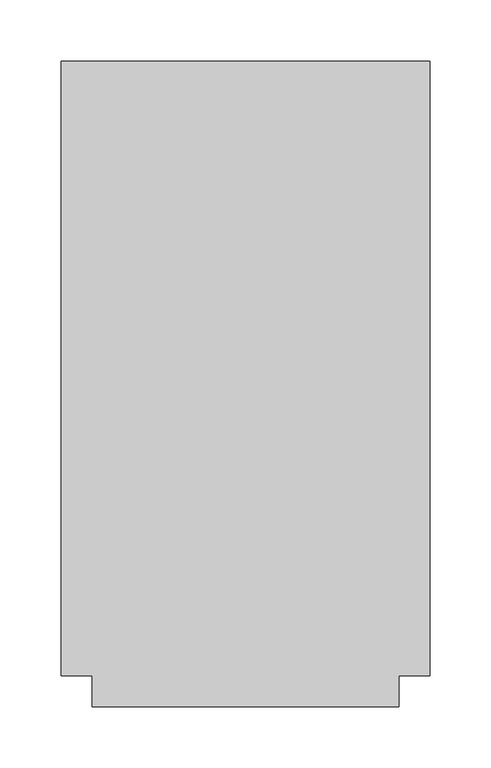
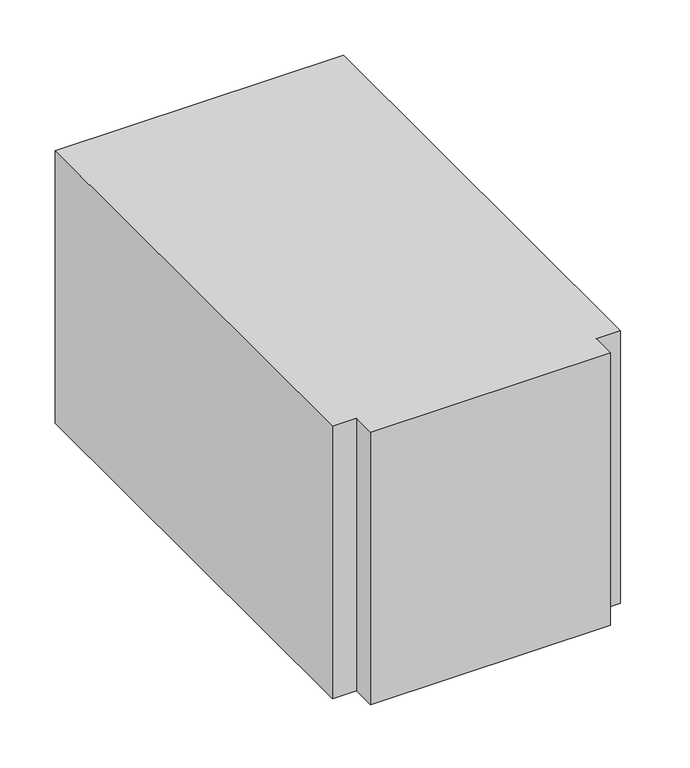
"""IFC4 building model written with IfcOpenShell, lengths in millimetres: duct fitting geometry, M_Te rectangular : Estándar."""

from ifc_helpers import new_model, si_unit, frame, origin, place, context, project, spatial, polyline, outline, extrude, source, transform, mapped, element, save


def duct_fitting_3e1e271b(model_context):
    return source(origin(), model_context, "Body", "SweptSolid", [
        extrude(outline(polyline([(-150.0, -250.0), (-150.0, 250.0), (150.0, 250.0), (150.0, -250.0), (125.0, -250.0), (125.0, -275.0), (-125.0, -275.0), (-125.0, -250.0), (-150.0, -250.0)])), frame((0.0, 0.0, -150.0), z_axis=(0.0, 0.0, 1.0), x_axis=(1.0, 0.0, 0.0)), (0.0, 0.0, 1.0), 300.0),
    ])


if __name__ == "__main__":
    model = new_model("IFC4")
    model_context = context("Model", 3, world=origin())
    ifc_project = project(units=[si_unit("LENGTHUNIT", "METRE", prefix="MILLI")], contexts=[model_context])
    site = spatial("IfcSite", under=ifc_project)
    building = spatial("IfcBuilding", under=site)
    placement = place(None, origin())
    duct_fitting_shape = duct_fitting_3e1e271b(model_context)
    element("IfcDuctFitting", 1, ObjectType="M_Te rectangular : Estándar", at=placement, inside=building, context=model_context, shape_type="MappedRepresentation", body=[
        mapped(duct_fitting_shape, transform((0.0, 0.0, 0.0), x_axis=(1.0, 0.0, 0.0), y_axis=(0.0, 1.0, 0.0), z_axis=(0.0, 0.0, 1.0))),
    ])
    save(model, "model.ifc")
